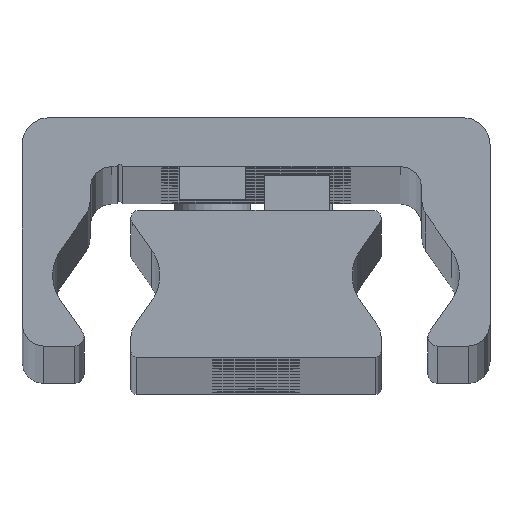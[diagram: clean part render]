
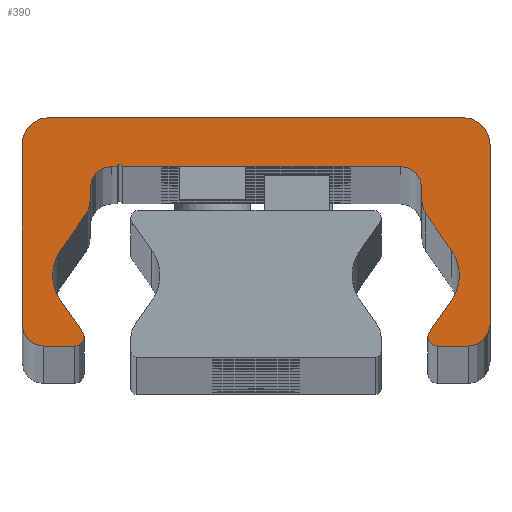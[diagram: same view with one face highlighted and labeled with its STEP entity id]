
A CAD part, top view. The second image highlights one B-rep face of the part: STEP entity #390.
In plain terms, the highlighted planar face has unit normal (0, 0, 1).
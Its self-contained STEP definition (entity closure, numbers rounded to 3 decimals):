
#390=ADVANCED_FACE('',(#1148),#1149,.T.);
#1148=FACE_OUTER_BOUND('',#1907,.T.);
#1149=PLANE('',#1908);
#1907=EDGE_LOOP('',(#4434,#4435,#4436,#4437,#4438,#4439,#4440,#4441,#4442,#4443,#4444,#4445,#4446,#4447,#4448,#4449,#4450,#4451,#4452,#4453,#4454,#4455,#4456,#4457,#4458,#4459,#4460,#4461,#4462,#4463));
#1908=AXIS2_PLACEMENT_3D('',#4464,#4465,#4466);
#4434=ORIENTED_EDGE('',*,*,#4949,.F.);
#4435=ORIENTED_EDGE('',*,*,#5302,.F.);
#4436=ORIENTED_EDGE('',*,*,#4935,.F.);
#4437=ORIENTED_EDGE('',*,*,#5301,.F.);
#4438=ORIENTED_EDGE('',*,*,#5297,.F.);
#4439=ORIENTED_EDGE('',*,*,#5294,.F.);
#4440=ORIENTED_EDGE('',*,*,#5291,.F.);
#4441=ORIENTED_EDGE('',*,*,#5288,.F.);
#4442=ORIENTED_EDGE('',*,*,#5285,.F.);
#4443=ORIENTED_EDGE('',*,*,#5282,.F.);
#4444=ORIENTED_EDGE('',*,*,#5279,.F.);
#4445=ORIENTED_EDGE('',*,*,#5276,.F.);
#4446=ORIENTED_EDGE('',*,*,#5273,.F.);
#4447=ORIENTED_EDGE('',*,*,#5270,.F.);
#4448=ORIENTED_EDGE('',*,*,#4941,.F.);
#4449=ORIENTED_EDGE('',*,*,#5268,.F.);
#4450=ORIENTED_EDGE('',*,*,#4943,.F.);
#4451=ORIENTED_EDGE('',*,*,#5267,.F.);
#4452=ORIENTED_EDGE('',*,*,#5263,.F.);
#4453=ORIENTED_EDGE('',*,*,#5260,.F.);
#4454=ORIENTED_EDGE('',*,*,#5257,.F.);
#4455=ORIENTED_EDGE('',*,*,#5254,.F.);
#4456=ORIENTED_EDGE('',*,*,#5251,.F.);
#4457=ORIENTED_EDGE('',*,*,#5248,.F.);
#4458=ORIENTED_EDGE('',*,*,#5245,.F.);
#4459=ORIENTED_EDGE('',*,*,#5242,.F.);
#4460=ORIENTED_EDGE('',*,*,#5239,.F.);
#4461=ORIENTED_EDGE('',*,*,#5236,.F.);
#4462=ORIENTED_EDGE('',*,*,#5233,.F.);
#4463=ORIENTED_EDGE('',*,*,#5230,.F.);
#4464=CARTESIAN_POINT('',(-0.023,14.187,1970.0));
#4465=DIRECTION('',(0.0,0.0,1.0));
#4466=DIRECTION('',(1.0,0.0,0.0));
#4935=EDGE_CURVE('',#5994,#5997,#5998,.T.);
#4941=EDGE_CURVE('',#6007,#6003,#6009,.T.);
#4943=EDGE_CURVE('',#6010,#6013,#6014,.T.);
#4949=EDGE_CURVE('',#6023,#6019,#6025,.T.);
#5230=EDGE_CURVE('',#6019,#6476,#6477,.T.);
#5233=EDGE_CURVE('',#6476,#6481,#6482,.T.);
#5236=EDGE_CURVE('',#6481,#6486,#6487,.T.);
#5239=EDGE_CURVE('',#6486,#6491,#6492,.T.);
#5242=EDGE_CURVE('',#6491,#6496,#6497,.T.);
#5245=EDGE_CURVE('',#6496,#6501,#6502,.T.);
#5248=EDGE_CURVE('',#6501,#6506,#6507,.T.);
#5251=EDGE_CURVE('',#6506,#6511,#6512,.T.);
#5254=EDGE_CURVE('',#6511,#6516,#6517,.T.);
#5257=EDGE_CURVE('',#6516,#6521,#6522,.T.);
#5260=EDGE_CURVE('',#6521,#6526,#6527,.T.);
#5263=EDGE_CURVE('',#6526,#6531,#6532,.T.);
#5267=EDGE_CURVE('',#6531,#6010,#6537,.T.);
#5268=EDGE_CURVE('',#6013,#6007,#6538,.T.);
#5270=EDGE_CURVE('',#6003,#6540,#6541,.T.);
#5273=EDGE_CURVE('',#6540,#6545,#6546,.T.);
#5276=EDGE_CURVE('',#6545,#6550,#6551,.T.);
#5279=EDGE_CURVE('',#6550,#6555,#6556,.T.);
#5282=EDGE_CURVE('',#6555,#6560,#6561,.T.);
#5285=EDGE_CURVE('',#6560,#6565,#6566,.T.);
#5288=EDGE_CURVE('',#6565,#6570,#6571,.T.);
#5291=EDGE_CURVE('',#6570,#6575,#6576,.T.);
#5294=EDGE_CURVE('',#6575,#6580,#6581,.T.);
#5297=EDGE_CURVE('',#6580,#6585,#6586,.T.);
#5301=EDGE_CURVE('',#6585,#5994,#6591,.T.);
#5302=EDGE_CURVE('',#5997,#6023,#6592,.T.);
#5994=VERTEX_POINT('',#7494);
#5997=VERTEX_POINT('',#7498);
#5998=CIRCLE('',#7499,0.85);
#6003=VERTEX_POINT('',#7505);
#6007=VERTEX_POINT('',#7510);
#6009=CIRCLE('',#7513,0.85);
#6010=VERTEX_POINT('',#7514);
#6013=VERTEX_POINT('',#7518);
#6014=CIRCLE('',#7519,4.);
#6019=VERTEX_POINT('',#7525);
#6023=VERTEX_POINT('',#7530);
#6025=CIRCLE('',#7533,4.);
#6476=VERTEX_POINT('',#8110);
#6477=CIRCLE('',#8111,4.);
#6481=VERTEX_POINT('',#8116);
#6482=LINE('',#8117,#8118);
#6486=VERTEX_POINT('',#8124);
#6487=CIRCLE('',#8125,2.);
#6491=VERTEX_POINT('',#8130);
#6492=LINE('',#8131,#8132);
#6496=VERTEX_POINT('',#8138);
#6497=CIRCLE('',#8139,2.0);
#6501=VERTEX_POINT('',#8144);
#6502=LINE('',#8145,#8146);
#6506=VERTEX_POINT('',#8152);
#6507=CIRCLE('',#8153,0.25);
#6511=VERTEX_POINT('',#8158);
#6512=LINE('',#8159,#8160);
#6516=VERTEX_POINT('',#8166);
#6517=CIRCLE('',#8167,2.0);
#6521=VERTEX_POINT('',#8172);
#6522=LINE('',#8173,#8174);
#6526=VERTEX_POINT('',#8180);
#6527=CIRCLE('',#8181,2.0);
#6531=VERTEX_POINT('',#8186);
#6532=LINE('',#8187,#8188);
#6537=CIRCLE('',#8195,4.);
#6538=LINE('',#8196,#8197);
#6540=VERTEX_POINT('',#8200);
#6541=CIRCLE('',#8201,0.85);
#6545=VERTEX_POINT('',#8206);
#6546=LINE('',#8207,#8208);
#6550=VERTEX_POINT('',#8214);
#6551=CIRCLE('',#8215,2.);
#6555=VERTEX_POINT('',#8220);
#6556=LINE('',#8221,#8222);
#6560=VERTEX_POINT('',#8228);
#6561=CIRCLE('',#8229,2.5);
#6565=VERTEX_POINT('',#8234);
#6566=LINE('',#8235,#8236);
#6570=VERTEX_POINT('',#8242);
#6571=CIRCLE('',#8243,2.5);
#6575=VERTEX_POINT('',#8248);
#6576=LINE('',#8249,#8250);
#6580=VERTEX_POINT('',#8256);
#6581=CIRCLE('',#8257,2.);
#6585=VERTEX_POINT('',#8262);
#6586=LINE('',#8263,#8264);
#6591=CIRCLE('',#8271,0.85);
#6592=LINE('',#8272,#8273);
#7494=CARTESIAN_POINT('',(15.8,1.859,1970.0));
#7498=CARTESIAN_POINT('',(15.922,2.298,1970.0));
#7499=AXIS2_PLACEMENT_3D('',#9159,#9160,#9161);
#7505=CARTESIAN_POINT('',(-15.8,1.859,1970.0));
#7510=CARTESIAN_POINT('',(-15.922,2.298,1970.0));
#7513=AXIS2_PLACEMENT_3D('',#9171,#9172,#9173);
#7514=CARTESIAN_POINT('',(-18.688,7.509,1970.0));
#7518=CARTESIAN_POINT('',(-17.964,5.214,1970.0));
#7519=AXIS2_PLACEMENT_3D('',#9175,#9176,#9177);
#7525=CARTESIAN_POINT('',(18.688,7.509,1970.0));
#7530=CARTESIAN_POINT('',(17.964,5.214,1970.0));
#7533=AXIS2_PLACEMENT_3D('',#9187,#9188,#9189);
#8110=CARTESIAN_POINT('',(17.964,9.803,1970.0));
#8111=AXIS2_PLACEMENT_3D('',#9778,#9779,#9780);
#8116=CARTESIAN_POINT('',(15.612,13.163,1970.0));
#8117=CARTESIAN_POINT('',(15.612,13.163,1970.0));
#8118=VECTOR('',#9785,1.0);
#8124=CARTESIAN_POINT('',(15.25,14.31,1970.0));
#8125=AXIS2_PLACEMENT_3D('',#9788,#9789,#9790);
#8130=CARTESIAN_POINT('',(15.25,15.509,1970.0));
#8131=CARTESIAN_POINT('',(15.25,15.509,1970.0));
#8132=VECTOR('',#9795,1.0);
#8138=CARTESIAN_POINT('',(13.25,17.509,1970.0));
#8139=AXIS2_PLACEMENT_3D('',#9798,#9799,#9800);
#8144=CARTESIAN_POINT('',(-12.25,17.509,1970.0));
#8145=CARTESIAN_POINT('',(-12.25,17.509,1970.0));
#8146=VECTOR('',#9805,1.0);
#8152=CARTESIAN_POINT('',(-12.75,17.509,1970.0));
#8153=AXIS2_PLACEMENT_3D('',#9808,#9809,#9810);
#8158=CARTESIAN_POINT('',(-13.25,17.509,1970.0));
#8159=CARTESIAN_POINT('',(-13.25,17.509,1970.0));
#8160=VECTOR('',#9815,1.0);
#8166=CARTESIAN_POINT('',(-15.25,15.509,1970.0));
#8167=AXIS2_PLACEMENT_3D('',#9818,#9819,#9820);
#8172=CARTESIAN_POINT('',(-15.25,14.31,1970.0));
#8173=CARTESIAN_POINT('',(-15.25,14.31,1970.0));
#8174=VECTOR('',#9825,1.0);
#8180=CARTESIAN_POINT('',(-15.612,13.163,1970.0));
#8181=AXIS2_PLACEMENT_3D('',#9828,#9829,#9830);
#8186=CARTESIAN_POINT('',(-17.964,9.803,1970.0));
#8187=CARTESIAN_POINT('',(-17.964,9.803,1970.0));
#8188=VECTOR('',#9835,1.0);
#8195=AXIS2_PLACEMENT_3D('',#9841,#9842,#9843);
#8196=CARTESIAN_POINT('',(-15.922,2.298,1970.0));
#8197=VECTOR('',#9844,1.0);
#8200=CARTESIAN_POINT('',(-16.65,1.009,1970.0));
#8201=AXIS2_PLACEMENT_3D('',#9846,#9847,#9848);
#8206=CARTESIAN_POINT('',(-19.5,1.009,1970.0));
#8207=CARTESIAN_POINT('',(-19.5,1.009,1970.0));
#8208=VECTOR('',#9853,1.0);
#8214=CARTESIAN_POINT('',(-21.5,3.009,1970.0));
#8215=AXIS2_PLACEMENT_3D('',#9856,#9857,#9858);
#8220=CARTESIAN_POINT('',(-21.5,19.509,1970.0));
#8221=CARTESIAN_POINT('',(-21.5,19.509,1970.0));
#8222=VECTOR('',#9863,1.0);
#8228=CARTESIAN_POINT('',(-19.0,22.009,1970.0));
#8229=AXIS2_PLACEMENT_3D('',#9866,#9867,#9868);
#8234=CARTESIAN_POINT('',(19.0,22.009,1970.0));
#8235=CARTESIAN_POINT('',(19.0,22.009,1970.0));
#8236=VECTOR('',#9873,1.0);
#8242=CARTESIAN_POINT('',(21.5,19.509,1970.0));
#8243=AXIS2_PLACEMENT_3D('',#9876,#9877,#9878);
#8248=CARTESIAN_POINT('',(21.5,3.009,1970.0));
#8249=CARTESIAN_POINT('',(21.5,3.009,1970.0));
#8250=VECTOR('',#9883,1.0);
#8256=CARTESIAN_POINT('',(19.5,1.009,1970.0));
#8257=AXIS2_PLACEMENT_3D('',#9886,#9887,#9888);
#8262=CARTESIAN_POINT('',(16.65,1.009,1970.0));
#8263=CARTESIAN_POINT('',(16.65,1.009,1970.0));
#8264=VECTOR('',#9893,1.0);
#8271=AXIS2_PLACEMENT_3D('',#9899,#9900,#9901);
#8272=CARTESIAN_POINT('',(17.964,5.214,1970.0));
#8273=VECTOR('',#9902,1.0);
#9159=CARTESIAN_POINT('',(16.65,1.859,1970.0));
#9160=DIRECTION('',(0.0,0.0,-1.0));
#9161=DIRECTION('',(1.0,0.0,0.0));
#9171=CARTESIAN_POINT('',(-16.65,1.859,1970.0));
#9172=DIRECTION('',(0.0,0.0,-1.0));
#9173=DIRECTION('',(1.0,0.0,0.0));
#9175=CARTESIAN_POINT('',(-14.688,7.509,1970.0));
#9176=DIRECTION('',(0.0,0.0,1.0));
#9177=DIRECTION('',(1.0,0.0,0.0));
#9187=CARTESIAN_POINT('',(14.688,7.509,1970.0));
#9188=DIRECTION('',(0.0,0.0,1.0));
#9189=DIRECTION('',(1.0,0.0,0.0));
#9778=CARTESIAN_POINT('',(14.688,7.509,1970.0));
#9779=DIRECTION('',(0.0,0.0,1.0));
#9780=DIRECTION('',(1.0,0.0,0.0));
#9785=DIRECTION('',(-0.574,0.819,0.0));
#9788=CARTESIAN_POINT('',(17.25,14.31,1970.0));
#9789=DIRECTION('',(0.0,0.0,-1.0));
#9790=DIRECTION('',(1.0,0.0,0.0));
#9795=DIRECTION('',(0.0,1.0,0.0));
#9798=CARTESIAN_POINT('',(13.25,15.509,1970.0));
#9799=DIRECTION('',(0.0,0.0,1.0));
#9800=DIRECTION('',(1.0,0.0,0.0));
#9805=DIRECTION('',(-1.0,-0.0,-0.0));
#9808=CARTESIAN_POINT('',(-12.5,17.509,1970.0));
#9809=DIRECTION('',(0.0,0.0,1.0));
#9810=DIRECTION('',(1.0,0.0,0.0));
#9815=DIRECTION('',(-1.0,-0.0,-0.0));
#9818=CARTESIAN_POINT('',(-13.25,15.509,1970.0));
#9819=DIRECTION('',(0.0,0.0,1.0));
#9820=DIRECTION('',(1.0,0.0,0.0));
#9825=DIRECTION('',(-0.0,-1.0,-0.0));
#9828=CARTESIAN_POINT('',(-17.25,14.31,1970.0));
#9829=DIRECTION('',(0.0,0.0,-1.0));
#9830=DIRECTION('',(1.0,0.0,0.0));
#9835=DIRECTION('',(-0.574,-0.819,-0.0));
#9841=CARTESIAN_POINT('',(-14.688,7.509,1970.0));
#9842=DIRECTION('',(0.0,0.0,1.0));
#9843=DIRECTION('',(1.0,0.0,0.0));
#9844=DIRECTION('',(0.574,-0.819,0.0));
#9846=CARTESIAN_POINT('',(-16.65,1.859,1970.0));
#9847=DIRECTION('',(0.0,0.0,-1.0));
#9848=DIRECTION('',(1.0,0.0,0.0));
#9853=DIRECTION('',(-1.0,-0.0,-0.0));
#9856=CARTESIAN_POINT('',(-19.5,3.009,1970.0));
#9857=DIRECTION('',(0.0,0.0,-1.0));
#9858=DIRECTION('',(1.0,0.0,0.0));
#9863=DIRECTION('',(0.0,1.0,0.0));
#9866=CARTESIAN_POINT('',(-19.0,19.509,1970.0));
#9867=DIRECTION('',(0.0,0.0,-1.0));
#9868=DIRECTION('',(1.0,0.0,0.0));
#9873=DIRECTION('',(1.0,0.0,0.0));
#9876=CARTESIAN_POINT('',(19.0,19.509,1970.0));
#9877=DIRECTION('',(0.0,0.0,-1.0));
#9878=DIRECTION('',(1.0,0.0,0.0));
#9883=DIRECTION('',(-0.0,-1.0,-0.0));
#9886=CARTESIAN_POINT('',(19.5,3.009,1970.0));
#9887=DIRECTION('',(0.0,0.0,-1.0));
#9888=DIRECTION('',(1.0,0.0,0.0));
#9893=DIRECTION('',(-1.0,-0.0,-0.0));
#9899=CARTESIAN_POINT('',(16.65,1.859,1970.0));
#9900=DIRECTION('',(0.0,0.0,-1.0));
#9901=DIRECTION('',(1.0,0.0,0.0));
#9902=DIRECTION('',(0.574,0.819,0.0));
